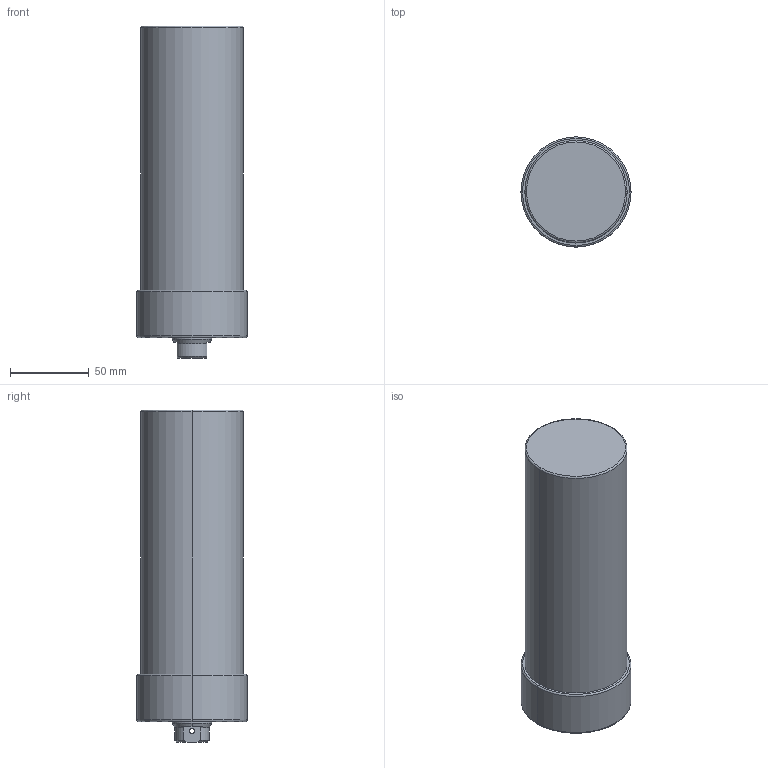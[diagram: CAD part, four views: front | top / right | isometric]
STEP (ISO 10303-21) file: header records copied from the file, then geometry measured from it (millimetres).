
FILE_DESCRIPTION (( 'STEP AP203' ), '1' );
FILE_NAME ('CLLU-065GB-135.STEP', '2020-01-07T06:48:24', ( '' ), ( '' ), 'SwSTEP 2.0', 'SolidWorks 2015', '' );
FILE_SCHEMA (( 'CONFIG_CONTROL_DESIGN' ));
Length unit declared in the file: millimetre
Products named in the file (1): CLLU-065GB-135
Bounding box: 70 x 70 x 211 mm (x, y, z)
Volume: 673300.5 mm3; surface area: 51387.4 mm2
Topology: 1 solids, 1 shells, 66 faces, 154 edges, 87 vertices
Faces by surface type: cylinder 26, cone 24, plane 10, torus 6
Entity records: 2001 total; most frequent: CARTESIAN_POINT 430, DIRECTION 342, ORIENTED_EDGE 288, EDGE_CURVE 144, AXIS2_PLACEMENT_3D 143, VERTEX_POINT 87, EDGE_LOOP 77, CIRCLE 76
